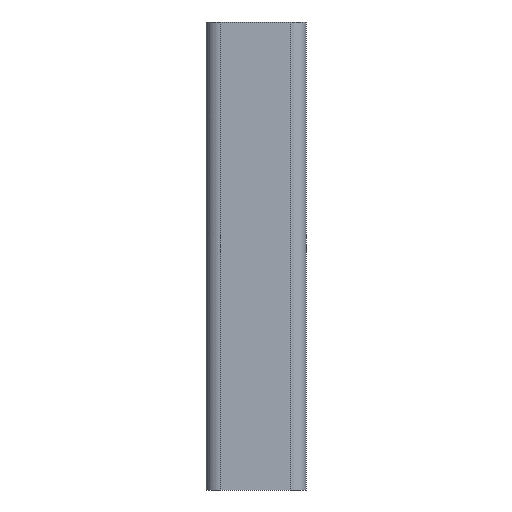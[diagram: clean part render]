
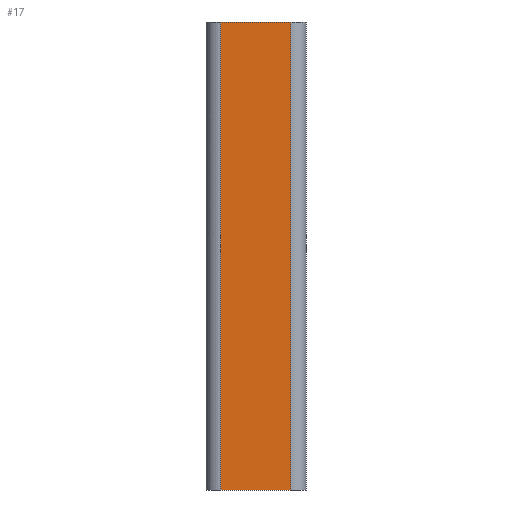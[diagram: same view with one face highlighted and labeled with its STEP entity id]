
A CAD part, front view. The second image highlights one B-rep face of the part: STEP entity #17.
In plain terms, the highlighted planar face has unit normal (0, -1, 0).
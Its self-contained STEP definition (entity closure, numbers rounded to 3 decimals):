
#17 = ADVANCED_FACE('',(#18),#32,.F.);
#18 = FACE_BOUND('',#19,.T.);
#19 = EDGE_LOOP('',(#20,#55,#83,#111));
#20 = ORIENTED_EDGE('',*,*,#21,.T.);
#21 = EDGE_CURVE('',#22,#24,#26,.T.);
#22 = VERTEX_POINT('',#23);
#23 = CARTESIAN_POINT('',(35.,-50.,0.));
#24 = VERTEX_POINT('',#25);
#25 = CARTESIAN_POINT('',(35.,-50.,468.));
#26 = SURFACE_CURVE('',#27,(#31,#43),.PCURVE_S1.);
#27 = LINE('',#28,#29);
#28 = CARTESIAN_POINT('',(35.,-50.,0.));
#29 = VECTOR('',#30,1.);
#30 = DIRECTION('',(-0.,-0.,1.));
#31 = PCURVE('',#32,#37);
#32 = PLANE('',#33);
#33 = AXIS2_PLACEMENT_3D('',#34,#35,#36);
#34 = CARTESIAN_POINT('',(35.,-50.,0.));
#35 = DIRECTION('',(-0.,1.,-0.));
#36 = DIRECTION('',(1.,0.,0.));
#37 = DEFINITIONAL_REPRESENTATION('',(#38),#42);
#38 = LINE('',#39,#40);
#39 = CARTESIAN_POINT('',(-0.,-0.));
#40 = VECTOR('',#41,1.);
#41 = DIRECTION('',(-0.,-1.));
#42 = ( GEOMETRIC_REPRESENTATION_CONTEXT(2) 
PARAMETRIC_REPRESENTATION_CONTEXT() REPRESENTATION_CONTEXT('2D SPACE',''
  ) );
#43 = PCURVE('',#44,#49);
#44 = CYLINDRICAL_SURFACE('',#45,15.);
#45 = AXIS2_PLACEMENT_3D('',#46,#47,#48);
#46 = CARTESIAN_POINT('',(35.,-35.,0.));
#47 = DIRECTION('',(0.,-0.,-1.));
#48 = DIRECTION('',(-1.,-0.,-0.));
#49 = DEFINITIONAL_REPRESENTATION('',(#50),#54);
#50 = LINE('',#51,#52);
#51 = CARTESIAN_POINT('',(4.712,0.));
#52 = VECTOR('',#53,1.);
#53 = DIRECTION('',(0.,-1.));
#54 = ( GEOMETRIC_REPRESENTATION_CONTEXT(2) 
PARAMETRIC_REPRESENTATION_CONTEXT() REPRESENTATION_CONTEXT('2D SPACE',''
  ) );
#55 = ORIENTED_EDGE('',*,*,#56,.T.);
#56 = EDGE_CURVE('',#24,#57,#59,.T.);
#57 = VERTEX_POINT('',#58);
#58 = CARTESIAN_POINT('',(-35.,-50.,468.));
#59 = SURFACE_CURVE('',#60,(#64,#71),.PCURVE_S1.);
#60 = LINE('',#61,#62);
#61 = CARTESIAN_POINT('',(35.,-50.,468.));
#62 = VECTOR('',#63,1.);
#63 = DIRECTION('',(-1.,-0.,-0.));
#64 = PCURVE('',#32,#65);
#65 = DEFINITIONAL_REPRESENTATION('',(#66),#70);
#66 = LINE('',#67,#68);
#67 = CARTESIAN_POINT('',(-0.,-468.));
#68 = VECTOR('',#69,1.);
#69 = DIRECTION('',(-1.,0.));
#70 = ( GEOMETRIC_REPRESENTATION_CONTEXT(2) 
PARAMETRIC_REPRESENTATION_CONTEXT() REPRESENTATION_CONTEXT('2D SPACE',''
  ) );
#71 = PCURVE('',#72,#77);
#72 = PLANE('',#73);
#73 = AXIS2_PLACEMENT_3D('',#74,#75,#76);
#74 = CARTESIAN_POINT('',(0.,0.,468.));
#75 = DIRECTION('',(-0.,-0.,1.));
#76 = DIRECTION('',(1.,0.,0.));
#77 = DEFINITIONAL_REPRESENTATION('',(#78),#82);
#78 = LINE('',#79,#80);
#79 = CARTESIAN_POINT('',(35.,-50.));
#80 = VECTOR('',#81,1.);
#81 = DIRECTION('',(-1.,0.));
#82 = ( GEOMETRIC_REPRESENTATION_CONTEXT(2) 
PARAMETRIC_REPRESENTATION_CONTEXT() REPRESENTATION_CONTEXT('2D SPACE',''
  ) );
#83 = ORIENTED_EDGE('',*,*,#84,.F.);
#84 = EDGE_CURVE('',#85,#57,#87,.T.);
#85 = VERTEX_POINT('',#86);
#86 = CARTESIAN_POINT('',(-35.,-50.,0.));
#87 = SURFACE_CURVE('',#88,(#92,#99),.PCURVE_S1.);
#88 = LINE('',#89,#90);
#89 = CARTESIAN_POINT('',(-35.,-50.,0.));
#90 = VECTOR('',#91,1.);
#91 = DIRECTION('',(-0.,-0.,1.));
#92 = PCURVE('',#32,#93);
#93 = DEFINITIONAL_REPRESENTATION('',(#94),#98);
#94 = LINE('',#95,#96);
#95 = CARTESIAN_POINT('',(-70.,0.));
#96 = VECTOR('',#97,1.);
#97 = DIRECTION('',(-0.,-1.));
#98 = ( GEOMETRIC_REPRESENTATION_CONTEXT(2) 
PARAMETRIC_REPRESENTATION_CONTEXT() REPRESENTATION_CONTEXT('2D SPACE',''
  ) );
#99 = PCURVE('',#100,#105);
#100 = CYLINDRICAL_SURFACE('',#101,15.);
#101 = AXIS2_PLACEMENT_3D('',#102,#103,#104);
#102 = CARTESIAN_POINT('',(-35.,-35.,0.));
#103 = DIRECTION('',(0.,-0.,-1.));
#104 = DIRECTION('',(-1.,-0.,-0.));
#105 = DEFINITIONAL_REPRESENTATION('',(#106),#110);
#106 = LINE('',#107,#108);
#107 = CARTESIAN_POINT('',(4.712,0.));
#108 = VECTOR('',#109,1.);
#109 = DIRECTION('',(0.,-1.));
#110 = ( GEOMETRIC_REPRESENTATION_CONTEXT(2) 
PARAMETRIC_REPRESENTATION_CONTEXT() REPRESENTATION_CONTEXT('2D SPACE',''
  ) );
#111 = ORIENTED_EDGE('',*,*,#112,.F.);
#112 = EDGE_CURVE('',#22,#85,#113,.T.);
#113 = SURFACE_CURVE('',#114,(#118,#125),.PCURVE_S1.);
#114 = LINE('',#115,#116);
#115 = CARTESIAN_POINT('',(35.,-50.,0.));
#116 = VECTOR('',#117,1.);
#117 = DIRECTION('',(-1.,-0.,-0.));
#118 = PCURVE('',#32,#119);
#119 = DEFINITIONAL_REPRESENTATION('',(#120),#124);
#120 = LINE('',#121,#122);
#121 = CARTESIAN_POINT('',(-0.,-0.));
#122 = VECTOR('',#123,1.);
#123 = DIRECTION('',(-1.,0.));
#124 = ( GEOMETRIC_REPRESENTATION_CONTEXT(2) 
PARAMETRIC_REPRESENTATION_CONTEXT() REPRESENTATION_CONTEXT('2D SPACE',''
  ) );
#125 = PCURVE('',#126,#131);
#126 = PLANE('',#127);
#127 = AXIS2_PLACEMENT_3D('',#128,#129,#130);
#128 = CARTESIAN_POINT('',(0.,0.,0.));
#129 = DIRECTION('',(-0.,-0.,1.));
#130 = DIRECTION('',(1.,0.,0.));
#131 = DEFINITIONAL_REPRESENTATION('',(#132),#136);
#132 = LINE('',#133,#134);
#133 = CARTESIAN_POINT('',(35.,-50.));
#134 = VECTOR('',#135,1.);
#135 = DIRECTION('',(-1.,0.));
#136 = ( GEOMETRIC_REPRESENTATION_CONTEXT(2) 
PARAMETRIC_REPRESENTATION_CONTEXT() REPRESENTATION_CONTEXT('2D SPACE',''
  ) );
